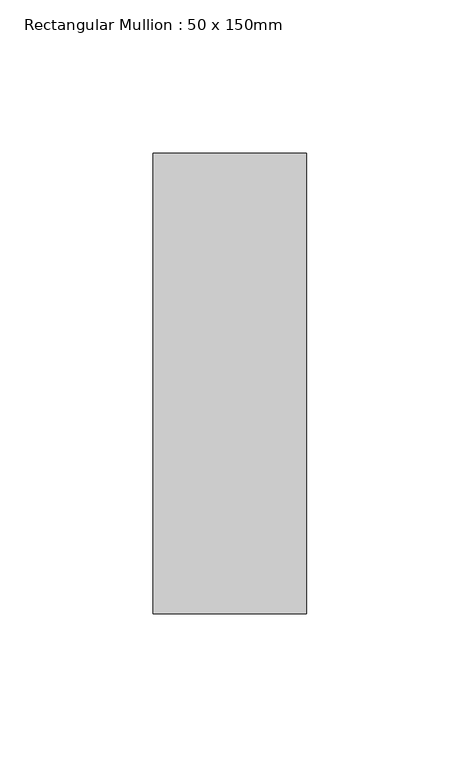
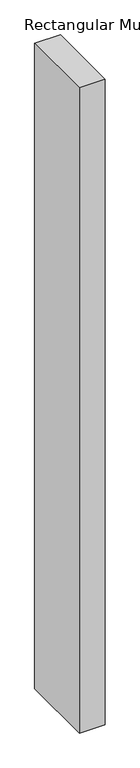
"""IFC4 building model written with IfcOpenShell, lengths in millimetres: member geometry, Rectangular Mullion : 50 x 150mm."""

from ifc_helpers import new_model, si_unit, frame, origin, place, context, project, spatial, polyline, outline, extrude, source, transform, mapped, element, save


def rectangular_mullion_50_x_150mm_e381b79d(model_context):
    return source(origin(), model_context, "Body", "SweptSolid", [
        extrude(outline(polyline([(0.0, 75.0), (0.0, -75.0), (-50.0, -75.0), (-50.0, 75.0), (0.0, 75.0)])), frame((0.0, 0.0, -1320.5870317), z_axis=(0.0, 0.0, 1.0), x_axis=(1.0, 0.0, 0.0)), (0.0, 0.0, 1.0), 1320.5870317),
    ])


if __name__ == "__main__":
    model = new_model("IFC4")
    model_context = context("Model", 3, world=origin())
    ifc_project = project(units=[si_unit("LENGTHUNIT", "METRE", prefix="MILLI")], contexts=[model_context])
    site = spatial("IfcSite", under=ifc_project)
    building = spatial("IfcBuilding", under=site)
    placement = place(None, origin())
    rectangular_mullion_50_x_150mm_shape = rectangular_mullion_50_x_150mm_e381b79d(model_context)
    element("IfcMember", 1, ObjectType="Rectangular Mullion : 50 x 150mm", at=placement, inside=building, context=model_context, shape_type="MappedRepresentation", body=[
        mapped(rectangular_mullion_50_x_150mm_shape, transform((0.0, 0.0, 0.0), x_axis=(1.0, 0.0, 0.0), y_axis=(0.0, 1.0, 0.0), z_axis=(0.0, 0.0, 1.0))),
    ])
    save(model, "model.ifc")
